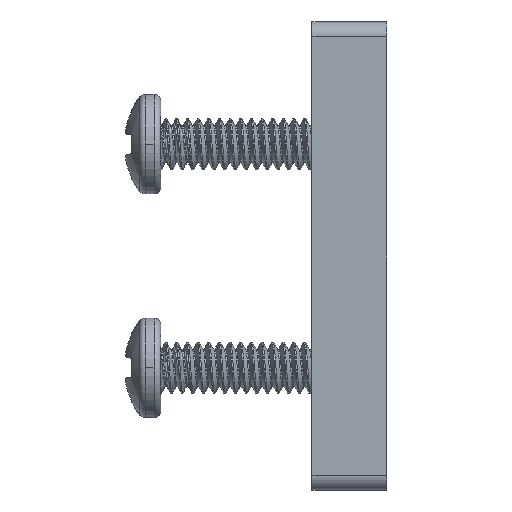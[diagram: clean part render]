
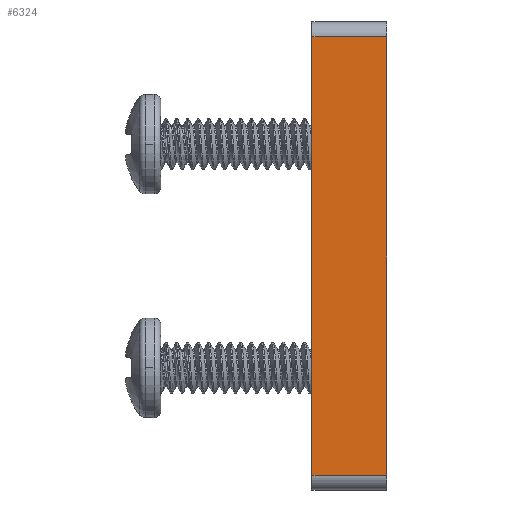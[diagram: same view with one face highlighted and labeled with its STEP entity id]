
A CAD part, left-side view. The second image highlights one B-rep face of the part: STEP entity #6324.
In plain terms, the highlighted planar face has unit normal (-1, 0, 0).
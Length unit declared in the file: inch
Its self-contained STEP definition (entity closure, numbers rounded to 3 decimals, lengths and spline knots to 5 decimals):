
#78 = ORIENTED_EDGE ( 'NONE', *, *, #8168, .T. ) ;
#547 = ORIENTED_EDGE ( 'NONE', *, *, #1329, .T. ) ;
#1072 = VECTOR ( 'NONE', #11331, 39.37008 ) ;
#1329 = EDGE_CURVE ( 'NONE', #11473, #4495, #6839, .T. ) ;
#1774 = VERTEX_POINT ( 'NONE', #6822 ) ;
#1955 = CARTESIAN_POINT ( 'NONE',  ( -0.8586, 0.125, 0.5687 ) ) ;
#3014 = LINE ( 'NONE', #5338, #7059 ) ;
#3212 = DIRECTION ( 'NONE',  ( 0., -1., 0. ) ) ;
#4035 = DIRECTION ( 'NONE',  ( 1., 0., 0. ) ) ;
#4084 = CARTESIAN_POINT ( 'NONE',  ( -0.8586, 0., 0.5687 ) ) ;
#4373 = DIRECTION ( 'NONE',  ( 0., 1., 0. ) ) ;
#4495 = VERTEX_POINT ( 'NONE', #12281 ) ;
#5138 = CARTESIAN_POINT ( 'NONE',  ( -0.8586, 0., -0.1913 ) ) ;
#5338 = CARTESIAN_POINT ( 'NONE',  ( -0.8586, 0.125, -0.1913 ) ) ;
#5404 = ORIENTED_EDGE ( 'NONE', *, *, #9704, .T. ) ;
#6324 = ADVANCED_FACE ( 'NONE', ( #8508 ), #8085, .F. ) ;
#6678 = CARTESIAN_POINT ( 'NONE',  ( -0.8586, 0.125, 0.5437 ) ) ;
#6822 = CARTESIAN_POINT ( 'NONE',  ( -0.8586, 0.125, -0.1913 ) ) ;
#6839 = LINE ( 'NONE', #4084, #1072 ) ;
#7059 = VECTOR ( 'NONE', #3212, 39.37008 ) ;
#7290 = VERTEX_POINT ( 'NONE', #6678 ) ;
#7334 = EDGE_LOOP ( 'NONE', ( #547, #5404, #8003, #78 ) ) ;
#7654 = AXIS2_PLACEMENT_3D ( 'NONE', #1955, #4035, #13271 ) ;
#7684 = VECTOR ( 'NONE', #8163, 39.37008 ) ;
#7820 = LINE ( 'NONE', #9537, #11844 ) ;
#8003 = ORIENTED_EDGE ( 'NONE', *, *, #8879, .F. ) ;
#8085 = PLANE ( 'NONE',  #7654 ) ;
#8163 = DIRECTION ( 'NONE',  ( 0., 0., 1. ) ) ;
#8168 = EDGE_CURVE ( 'NONE', #1774, #11473, #3014, .T. ) ;
#8508 = FACE_OUTER_BOUND ( 'NONE', #7334, .T. ) ;
#8879 = EDGE_CURVE ( 'NONE', #1774, #7290, #10413, .T. ) ;
#9537 = CARTESIAN_POINT ( 'NONE',  ( -0.8586, 0.125, 0.5437 ) ) ;
#9704 = EDGE_CURVE ( 'NONE', #4495, #7290, #7820, .T. ) ;
#10178 = CARTESIAN_POINT ( 'NONE',  ( -0.8586, 0.125, 0.5687 ) ) ;
#10413 = LINE ( 'NONE', #10178, #7684 ) ;
#11331 = DIRECTION ( 'NONE',  ( 0., 0., 1. ) ) ;
#11473 = VERTEX_POINT ( 'NONE', #5138 ) ;
#11844 = VECTOR ( 'NONE', #4373, 39.37008 ) ;
#12281 = CARTESIAN_POINT ( 'NONE',  ( -0.8586, 0., 0.5437 ) ) ;
#13271 = DIRECTION ( 'NONE',  ( 0., 0., -1. ) ) ;
